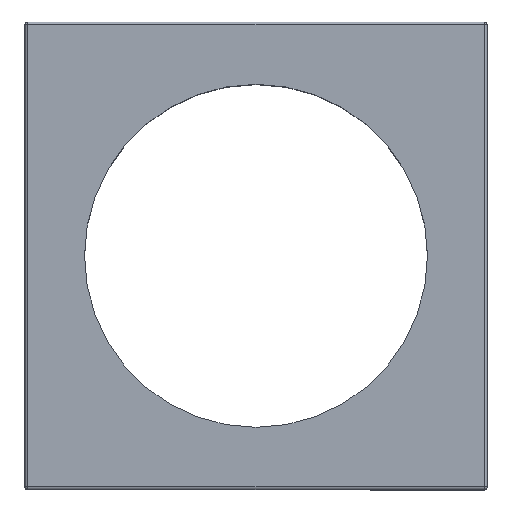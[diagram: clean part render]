
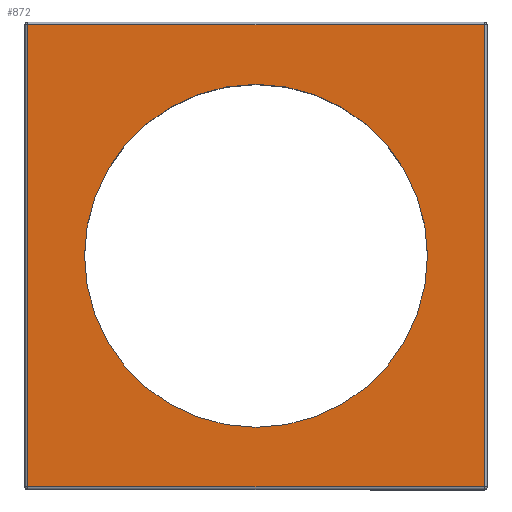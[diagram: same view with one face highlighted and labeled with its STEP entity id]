
A CAD part, top view. The second image highlights one B-rep face of the part: STEP entity #872.
In plain terms, the highlighted planar face has unit normal (0, 0, 1).
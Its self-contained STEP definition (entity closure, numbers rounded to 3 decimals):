
#54 = VERTEX_POINT ( 'NONE', #3896 ) ;
#106 = DIRECTION ( 'NONE',  ( 0., -1., 0. ) ) ;
#268 = LINE ( 'NONE', #5170, #5598 ) ;
#326 = AXIS2_PLACEMENT_3D ( 'NONE', #4840, #3796, #1759 ) ;
#587 = DIRECTION ( 'NONE',  ( 0., 0., -1. ) ) ;
#676 = FACE_BOUND ( 'NONE', #971, .T. ) ;
#872 = ADVANCED_FACE ( 'NONE', ( #676, #5685 ), #5184, .F. ) ;
#971 = EDGE_LOOP ( 'NONE', ( #5622, #4296 ) ) ;
#1074 = CARTESIAN_POINT ( 'NONE',  ( 2283.142, -615.106, 0. ) ) ;
#1266 = EDGE_CURVE ( 'NONE', #4873, #54, #4215, .T. ) ;
#1406 = LINE ( 'NONE', #1074, #4549 ) ;
#1465 = VECTOR ( 'NONE', #6653, 1000. ) ;
#1618 = DIRECTION ( 'NONE',  ( 1., 0., 0. ) ) ;
#1759 = DIRECTION ( 'NONE',  ( 1., 0., 0. ) ) ;
#1926 = VERTEX_POINT ( 'NONE', #2616 ) ;
#2059 = DIRECTION ( 'NONE',  ( 0., 1., 0. ) ) ;
#2102 = CARTESIAN_POINT ( 'NONE',  ( 2303.642, -615.106, 0. ) ) ;
#2191 = DIRECTION ( 'NONE',  ( 0., 0., 1. ) ) ;
#2600 = CARTESIAN_POINT ( 'NONE',  ( 2283.142, -635.856, 0. ) ) ;
#2616 = CARTESIAN_POINT ( 'NONE',  ( 2298.542, -635.856, 0. ) ) ;
#2810 = CARTESIAN_POINT ( 'NONE',  ( 2303.642, -635.856, 0. ) ) ;
#2934 = EDGE_CURVE ( 'NONE', #4880, #3482, #1406, .T. ) ;
#3305 = EDGE_LOOP ( 'NONE', ( #6219, #4781, #4025, #4157 ) ) ;
#3482 = VERTEX_POINT ( 'NONE', #2102 ) ;
#3593 = CARTESIAN_POINT ( 'NONE',  ( 2283.142, -656.606, 0. ) ) ;
#3661 = VECTOR ( 'NONE', #106, 1000. ) ;
#3796 = DIRECTION ( 'NONE',  ( 0., 0., 1. ) ) ;
#3896 = CARTESIAN_POINT ( 'NONE',  ( 2262.642, -656.606, 0. ) ) ;
#3996 = CARTESIAN_POINT ( 'NONE',  ( 2262.642, -615.106, 0. ) ) ;
#4025 = ORIENTED_EDGE ( 'NONE', *, *, #5039, .F. ) ;
#4038 = AXIS2_PLACEMENT_3D ( 'NONE', #4764, #2191, #5813 ) ;
#4157 = ORIENTED_EDGE ( 'NONE', *, *, #1266, .F. ) ;
#4186 = DIRECTION ( 'NONE',  ( -1., 0., 0. ) ) ;
#4193 = EDGE_CURVE ( 'NONE', #3482, #4873, #5863, .T. ) ;
#4215 = LINE ( 'NONE', #3593, #1465 ) ;
#4296 = ORIENTED_EDGE ( 'NONE', *, *, #5358, .F. ) ;
#4371 = VERTEX_POINT ( 'NONE', #6558 ) ;
#4549 = VECTOR ( 'NONE', #1618, 1000. ) ;
#4600 = CIRCLE ( 'NONE', #4038, 15.4 ) ;
#4764 = CARTESIAN_POINT ( 'NONE',  ( 2283.142, -635.856, 0. ) ) ;
#4781 = ORIENTED_EDGE ( 'NONE', *, *, #2934, .F. ) ;
#4840 = CARTESIAN_POINT ( 'NONE',  ( 2283.142, -635.856, 0. ) ) ;
#4873 = VERTEX_POINT ( 'NONE', #6595 ) ;
#4880 = VERTEX_POINT ( 'NONE', #3996 ) ;
#5039 = EDGE_CURVE ( 'NONE', #54, #4880, #268, .T. ) ;
#5096 = CIRCLE ( 'NONE', #326, 15.4 ) ;
#5170 = CARTESIAN_POINT ( 'NONE',  ( 2262.642, -635.856, 0. ) ) ;
#5184 = PLANE ( 'NONE',  #5799 ) ;
#5358 = EDGE_CURVE ( 'NONE', #4371, #1926, #5096, .T. ) ;
#5598 = VECTOR ( 'NONE', #2059, 1000. ) ;
#5622 = ORIENTED_EDGE ( 'NONE', *, *, #6197, .F. ) ;
#5685 = FACE_OUTER_BOUND ( 'NONE', #3305, .T. ) ;
#5799 = AXIS2_PLACEMENT_3D ( 'NONE', #2600, #587, #4186 ) ;
#5813 = DIRECTION ( 'NONE',  ( 1., 0., 0. ) ) ;
#5863 = LINE ( 'NONE', #2810, #3661 ) ;
#6197 = EDGE_CURVE ( 'NONE', #1926, #4371, #4600, .T. ) ;
#6219 = ORIENTED_EDGE ( 'NONE', *, *, #4193, .F. ) ;
#6558 = CARTESIAN_POINT ( 'NONE',  ( 2267.742, -635.856, 0. ) ) ;
#6595 = CARTESIAN_POINT ( 'NONE',  ( 2303.642, -656.606, 0. ) ) ;
#6653 = DIRECTION ( 'NONE',  ( -1., 0., 0. ) ) ;
